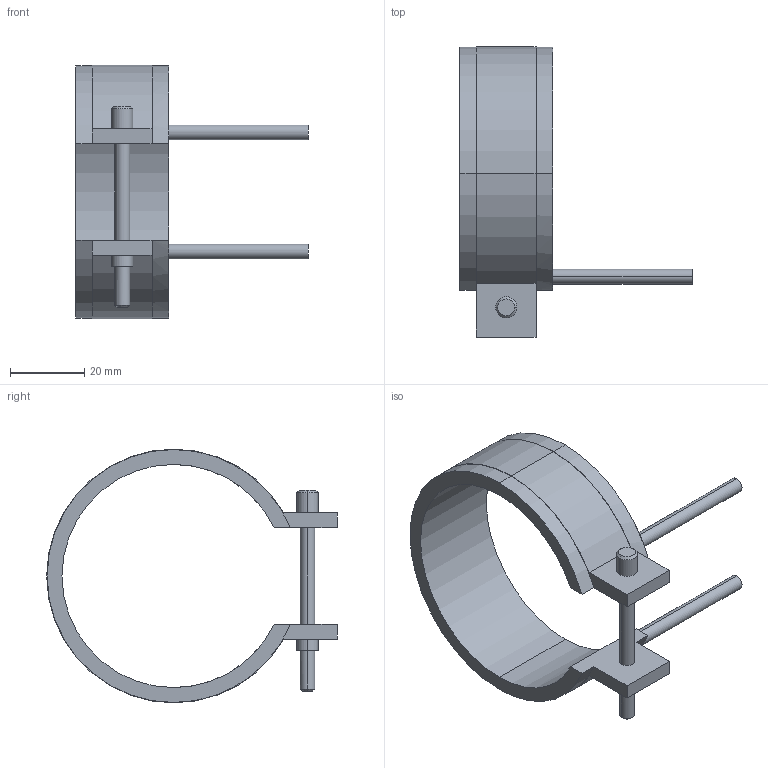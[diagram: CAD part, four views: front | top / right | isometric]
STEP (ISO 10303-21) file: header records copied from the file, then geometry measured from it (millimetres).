
FILE_DESCRIPTION(('CATIA V5 STEP Exchange'),'2;1');
FILE_NAME('C:\Users\Utente\Desktop\IO LAVORO\3D X SITO CF\X SITO\PLASTICA\RF2\14060025.stp','2021-04-01T09:31:56+00:00',('none'),('none'),'CATIA Version 5 Release 20 GA (IN-10)','CATIA V5 STEP AP203','none');
FILE_SCHEMA(('CONFIG_CONTROL_DESIGN'));
Length unit declared in the file: millimetre
Products named in the file (1): 14060025
Bounding box: 62.5 x 78.1 x 68.2 mm (x, y, z)
Volume: 21076.9 mm3; surface area: 12971.4 mm2
Topology: 1 solids, 1 shells, 45 faces, 116 edges, 76 vertices
Faces by surface type: cylinder 24, plane 17, cone 4
Entity records: 1406 total; most frequent: CARTESIAN_POINT 280, ORIENTED_EDGE 232, DIRECTION 196, EDGE_CURVE 116, AXIS2_PLACEMENT_3D 104, VERTEX_POINT 76, CIRCLE 62, VECTOR 52
